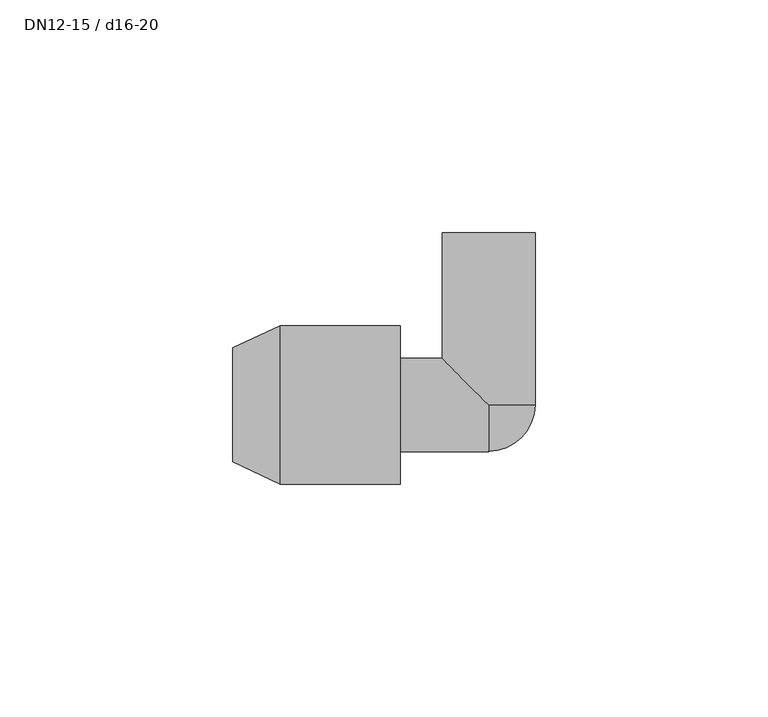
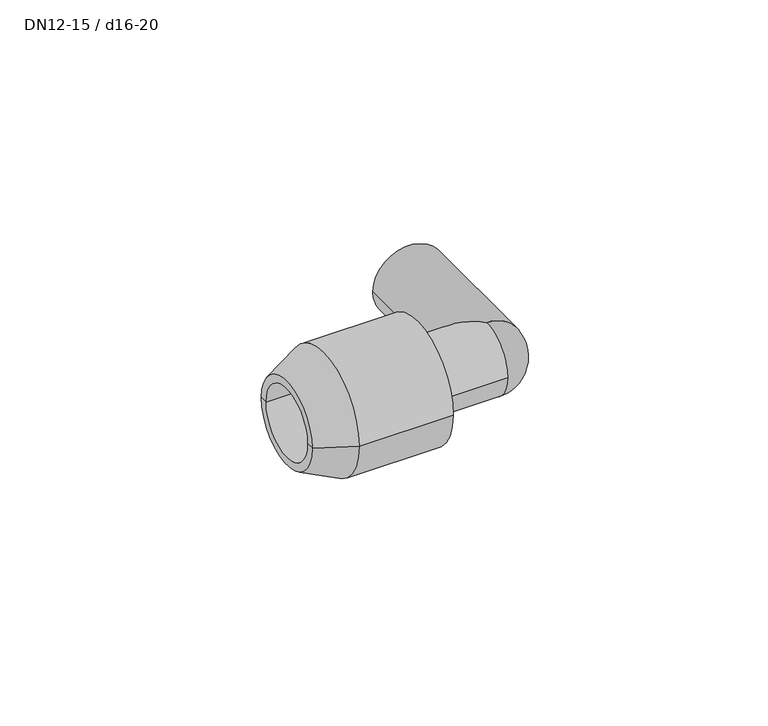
"""IFC4 building model written with IfcOpenShell, lengths in millimetres: pipe fitting geometry, NLRS_50_PIF_UN_PushFit bocht 90° met insteekeinde_geb : DN12-15 / d16-20."""

import ifcopenshell
import ifcopenshell.guid

model = None  # the IFC model being written
_history = None  # IfcOwnerHistory: only IFC2X3 demands one
_inside = {}  # id of a spatial element -> (the spatial element, [elements in it])
_under = {}  # id of a project, library or spatial element -> (it, [spatial elements below it])
_declared = {}  # id of a project -> (the project, [libraries it declares])
_typed = {}  # id of a type object -> (the type object, [elements of that type])
_made_of = {}  # id of a material, layer set ... -> (it, [elements and type objects made of it])


def new_model(schema):
    """Start an empty IFC model of exactly this schema.

    Asked for "IFC4X3", IfcOpenShell would pick the latest addendum, in which some entities
    have other attributes; the version numbers below select the first issue.
    IFC2X3 requires an IfcOwnerHistory on every rooted entity: one is made here for all.
    """
    global model, _history
    if schema == "IFC4X3":
        model = ifcopenshell.file(schema_version=(4, 3, 0, 0))
    else:
        model = ifcopenshell.file(schema=schema)
    _inside.clear()
    _under.clear()
    _declared.clear()
    _typed.clear()
    _made_of.clear()
    _history = None
    if model.schema == "IFC2X3":
        org = make("IfcOrganization", Name="unknown")
        user = make(
            "IfcPersonAndOrganization",
            ThePerson=make("IfcPerson", FamilyName="unknown"),
            TheOrganization=org,
        )
        app = make(
            "IfcApplication",
            ApplicationDeveloper=org,
            Version="unknown",
            ApplicationFullName="unknown",
            ApplicationIdentifier="unknown",
        )
        _history = make(
            "IfcOwnerHistory",
            OwningUser=user,
            OwningApplication=app,
            ChangeAction="ADDED",
            CreationDate=0,
        )
    return model


def make(cls, **values):
    """One entity of the class cls with the attributes given. An attribute that is None is left unset."""
    return model.create_entity(
        cls, **{name: value for name, value in values.items() if value is not None}
    )


def rooted(cls, **values):
    """An entity with a GlobalId (a new one), such as an element, a storey or a relation."""
    return make(cls, GlobalId=ifcopenshell.guid.new(), OwnerHistory=_history, **values)


def si_unit(unit_type, name, prefix=None):
    """IfcSIUnit, for example si_unit("LENGTHUNIT", "METRE", prefix="MILLI")."""
    return make("IfcSIUnit", UnitType=unit_type, Prefix=prefix, Name=name)


def assignment(units):
    """IfcUnitAssignment: the units of a project."""
    return None if units is None else make("IfcUnitAssignment", Units=units)


def point(xyz):
    """IfcCartesianPoint."""
    return None if xyz is None else make("IfcCartesianPoint", Coordinates=xyz)


def direction(xyz):
    """IfcDirection."""
    return None if xyz is None else make("IfcDirection", DirectionRatios=xyz)


def frame(location, z_axis=None, x_axis=None):
    """IfcAxis2Placement3D, a coordinate frame: its origin and axes. An axis left out is left unset."""
    return make(
        "IfcAxis2Placement3D",
        Location=point(location),
        Axis=direction(z_axis),
        RefDirection=direction(x_axis),
    )


def origin():
    """The frame at (0, 0, 0) with its axes left unset."""
    return frame((0.0, 0.0, 0.0))


def place(relative_to, where):
    """IfcLocalPlacement: puts the frame where relative to a parent placement (None: the world)."""
    return make(
        "IfcLocalPlacement", PlacementRelTo=relative_to, RelativePlacement=where
    )


def context(
    kind, dimensions, precision=None, world=None, true_north=None, identifier=None
):
    """IfcGeometricRepresentationContext, for example the 3D "Model" context."""
    return make(
        "IfcGeometricRepresentationContext",
        ContextIdentifier=identifier,
        ContextType=kind,
        CoordinateSpaceDimension=dimensions,
        Precision=precision,
        WorldCoordinateSystem=world,
        TrueNorth=true_north,
    )


def project(units=None, contexts=None):
    """IfcProject with its units and contexts."""
    return rooted(
        "IfcProject",
        Name="project",
        RepresentationContexts=contexts,
        UnitsInContext=assignment(units),
    )


def spatial(cls, under=None, at=None, **own):
    """A site, building, storey or space (cls), placed at a placement, below another one or the project."""
    s = rooted(cls, ObjectPlacement=at, **own)
    if under is not None:
        _under.setdefault(under.id(), (under, []))[1].append(s)
    return s


def polyline(points):
    """IfcPolyline through the points."""
    return make("IfcPolyline", Points=[point(p) for p in points])


def circle_curve(where, radius):
    """IfcCircle in the frame where."""
    return make("IfcCircle", Position=where, Radius=radius)


def ellipse_curve(where, semi_axis1, semi_axis2):
    """IfcEllipse in the frame where."""
    return make(
        "IfcEllipse", Position=where, SemiAxis1=semi_axis1, SemiAxis2=semi_axis2
    )


def trimmed(basis, trim1, trim2, sense, master):
    """IfcTrimmedCurve: the piece of a basis curve between two trims."""
    return make(
        "IfcTrimmedCurve",
        BasisCurve=basis,
        Trim1=trim1,
        Trim2=trim2,
        SenseAgreement=sense,
        MasterRepresentation=master,
    )


def shape(context_of_items, identifier, shape_type, items):
    """IfcShapeRepresentation: the items that make up one representation, for example the "Body"."""
    return make(
        "IfcShapeRepresentation",
        ContextOfItems=context_of_items,
        RepresentationIdentifier=identifier,
        RepresentationType=shape_type,
        Items=items,
    )


def source(mapping_origin, context_of_items, identifier, shape_type, items):
    """IfcRepresentationMap: a shape defined once, which mapped items show again and again."""
    return make(
        "IfcRepresentationMap",
        MappingOrigin=mapping_origin,
        MappedRepresentation=shape(context_of_items, identifier, shape_type, items),
    )


def transform(
    local_origin,
    x_axis=None,
    y_axis=None,
    z_axis=None,
    scale=None,
    scale2=None,
    scale3=None,
    uniform=True,
):
    """IfcCartesianTransformationOperator3D, or its non-uniform kind. x_axis, y_axis, z_axis: its Axis1, 2, 3."""
    if uniform:
        return make(
            "IfcCartesianTransformationOperator3D",
            Axis1=direction(x_axis),
            Axis2=direction(y_axis),
            LocalOrigin=point(local_origin),
            Scale=scale,
            Axis3=direction(z_axis),
        )
    return make(
        "IfcCartesianTransformationOperator3DnonUniform",
        Axis1=direction(x_axis),
        Axis2=direction(y_axis),
        LocalOrigin=point(local_origin),
        Scale=scale,
        Axis3=direction(z_axis),
        Scale2=scale2,
        Scale3=scale3,
    )


def mapped(mapping_source, mapping_target):
    """IfcMappedItem: shows the shape of a source again, moved by a transform."""
    return make(
        "IfcMappedItem", MappingSource=mapping_source, MappingTarget=mapping_target
    )


def made_of(thing, what):
    """Note that an element or type object is made of a material, layer set ...; save() writes the relation."""
    if what is not None:
        _made_of.setdefault(what.id(), (what, []))[1].append(thing)
    return thing


def element(
    cls,
    number,
    at=None,
    inside=None,
    cuts=None,
    type_object=None,
    material=None,
    context=None,
    identifier="Body",
    shape_type=None,
    held_by="IfcProductDefinitionShape",
    body=None,
    shapes=None,
    **own,
):
    """One element of the class cls, such as IfcWall. Its Tag is "e" and its number.

    at: its placement. inside: the storey or other place that contains it. cuts: it is an
    opening in that element (IfcRelVoidsElement). A single representation is given by context,
    identifier, shape_type and body (its items); several are given by shapes. held_by: the class
    of the entity that holds the representations. save() writes the other relations.
    """
    e = rooted(cls, Tag="e%d" % number, ObjectPlacement=at, **own)
    if body is not None:
        shapes = [shape(context, identifier, shape_type, body)]
    if shapes is not None:
        e.Representation = make(held_by, Representations=shapes)
    if inside is not None:
        _inside.setdefault(inside.id(), (inside, []))[1].append(e)
    if cuts is not None:
        rooted(
            "IfcRelVoidsElement", RelatingBuildingElement=cuts, RelatedOpeningElement=e
        )
    if type_object is not None:
        _typed.setdefault(type_object.id(), (type_object, []))[1].append(e)
    return made_of(e, material)


def aggregate(whole, parts):
    """IfcRelAggregates: a whole, such as a stair, and the parts it consists of."""
    return rooted("IfcRelAggregates", RelatingObject=whole, RelatedObjects=parts)


def save(model, path):
    """Write the relations noted so far, then the file.

    IfcRelAggregates (storeys below a building ...), IfcRelContainedInSpatialStructure (elements
    in a storey), IfcRelDefinesByType, IfcRelAssociatesMaterial and IfcRelDeclares: one each for
    every whole, place, type object, material and project.
    """
    for whole, parts in _under.values():
        aggregate(whole, parts)
    for where, things in _inside.values():
        rooted(
            "IfcRelContainedInSpatialStructure",
            RelatedElements=things,
            RelatingStructure=where,
        )
    for kind, things in _typed.values():
        rooted("IfcRelDefinesByType", RelatedObjects=things, RelatingType=kind)
    for what, things in _made_of.values():
        rooted("IfcRelAssociatesMaterial", RelatedObjects=things, RelatingMaterial=what)
    for by, libraries in _declared.values():
        rooted("IfcRelDeclares", RelatingContext=by, RelatedDefinitions=libraries)
    model.write(path)


def plane_surface(at):
    """IfcPlane: the flat surface through the origin of the frame at, square to its z axis."""
    return make("IfcPlane", Position=at)


def cylinder_surface(at, radius):
    """IfcCylindricalSurface: all points at the distance radius from the z axis of the frame at."""
    return make("IfcCylindricalSurface", Position=at, Radius=radius)


def revolved_surface(curve, axis_point, axis_direction):
    """IfcSurfaceOfRevolution: the curve turned about the line through axis_point along axis_direction."""
    return make(
        "IfcSurfaceOfRevolution",
        SweptCurve=make("IfcArbitraryOpenProfileDef", ProfileType="CURVE", Curve=curve),
        AxisPosition=make("IfcAxis1Placement", Location=point(axis_point), Axis=direction(axis_direction)),
    )


def advanced_brep(points, edges, surfaces, faces):
    """IfcAdvancedBrep: a solid bounded by faces that lie on surfaces and meet in shared edges.

    An edge is (start, end): straight between two places in points (the first is 0);
    or (start, end, curve); or (start, end, curve, False) where it runs against its curve.
    A face is (place in surfaces, loops), or (place, loops, False) where it looks against
    its surface's normal. A loop lists edges by number (the first is 1), with a minus sign
    where the edge is run from its end to its start. The first loop is the outer one.
    """
    corners = [point(p) for p in points]
    vertices = [make("IfcVertexPoint", VertexGeometry=c) for c in corners]
    made = []
    for start, end, *more in edges:
        made.append(
            make(
                "IfcEdgeCurve",
                EdgeStart=vertices[start],
                EdgeEnd=vertices[end],
                EdgeGeometry=more[0] if more else make("IfcPolyline", Points=[corners[start], corners[end]]),
                SameSense=more[1] if len(more) > 1 else True,
            )
        )
    hull = []
    for where, loops, *sense in faces:
        bounds = []
        for j, loop in enumerate(loops):
            ring = [make("IfcOrientedEdge", EdgeElement=made[abs(k) - 1], Orientation=k > 0) for k in loop]
            bounds.append(
                make(
                    "IfcFaceOuterBound" if j == 0 else "IfcFaceBound",
                    Bound=make("IfcEdgeLoop", EdgeList=ring),
                    Orientation=True,
                )
            )
        hull.append(make("IfcAdvancedFace", Bounds=bounds, FaceSurface=surfaces[where], SameSense=sense[0] if sense else True))
    return make("IfcAdvancedBrep", Outer=make("IfcClosedShell", CfsFaces=hull))


def dn12_15_d16_20_9174b6bf(model_context):
    return source(origin(), model_context, "Body", "AdvancedBrep", [
        advanced_brep(
        [(-19.0, -17.0, 0.0), (-19.0, 17.0, 0.0), (-19.0, 0.0, 0.0), (-44.8135921, -17.0, 0.0), (-44.8135921, 17.0, 0.0), (-55.0, -12.25, 0.0), (-55.0, 12.25, 0.0), (-29.0, -10.0, 0.0), (-29.0, 10.0, 0.0), (-55.0, 10.0, 0.0), (-55.0, -10.0, 0.0), (-29.0, 0.0, 0.0)],
        [
            (0, 1, circle_curve(frame((-19.0, 0.0, 0.0), z_axis=(1.0, 0.0, 0.0), x_axis=(0.0, 1.0, 0.0)), 17.0)),
            (1, 2),
            (2, 0),
            (1, 0, circle_curve(frame((-19.0, 0.0, 0.0), z_axis=(1.0, 0.0, 0.0), x_axis=(0.0, 1.0, 0.0)), 17.0)),
            (3, 4, circle_curve(frame((-44.8135921, 0.0, 0.0), z_axis=(1.0, 0.0, 0.0), x_axis=(0.0, 1.0, 0.0)), 17.0)),
            (4, 1),
            (0, 3),
            (4, 3, circle_curve(frame((-44.8135921, 0.0, 0.0), z_axis=(1.0, 0.0, 0.0), x_axis=(0.0, 1.0, 0.0)), 17.0)),
            (5, 6, circle_curve(frame((-55.0, 0.0, 0.0), z_axis=(1.0, 0.0, 0.0), x_axis=(0.0, 1.0, 0.0)), 12.25)),
            (6, 4),
            (3, 5),
            (6, 5, circle_curve(frame((-55.0, 0.0, 0.0), z_axis=(1.0, 0.0, 0.0), x_axis=(0.0, 1.0, 0.0)), 12.25)),
            (7, 8, circle_curve(frame((-29.0, 0.0, 0.0), z_axis=(1.0, 0.0, 0.0), x_axis=(0.0, 1.0, 0.0)), 10.0)),
            (8, 9),
            (9, 10, circle_curve(frame((-55.0, 0.0, 0.0), z_axis=(-1.0, 0.0, 0.0), x_axis=(0.0, 1.0, 0.0)), 10.0)),
            (10, 7),
            (8, 7, circle_curve(frame((-29.0, 0.0, 0.0), z_axis=(1.0, 0.0, 0.0), x_axis=(0.0, 1.0, 0.0)), 10.0)),
            (10, 9, circle_curve(frame((-55.0, 0.0, 0.0), z_axis=(-1.0, 0.0, 0.0), x_axis=(0.0, 1.0, 0.0)), 10.0)),
            (11, 8),
            (7, 11),
            (9, 6),
            (5, 10),
        ],
        [
            plane_surface(frame((-19.0, 0.0, 0.0), z_axis=(1.0, 0.0, 0.0), x_axis=(0.0, 1.0, 0.0))),
            cylinder_surface(frame((-65.0, 0.0, 0.0), z_axis=(-1.0, 0.0, 0.0), x_axis=(0.0, 1.0, 0.0)), 17.0),
            revolved_surface(polyline([(-44.8135921, 17.0, 0.0), (-55.0, 12.25, 0.0)]), (-65.0, 0.0, 0.0), (-1.0, 0.0, 0.0)),
            revolved_surface(polyline([(-55.0, 10.0, 0.0), (-29.0, 10.0, 0.0)]), (-65.0, 0.0, 0.0), (-1.0, 0.0, 0.0)),
            plane_surface(frame((-29.0, 0.0, 0.0), z_axis=(-1.0, 0.0, 0.0), x_axis=(0.0, 1.0, 0.0))),
            plane_surface(frame((-55.0, 0.0, 0.0), z_axis=(-1.0, 0.0, 0.0), x_axis=(0.0, 1.0, 0.0))),
        ],
        [
            (0, [[1, 2, 3]]),
            (0, [[4, -3, -2]]),
            (1, [[5, 6, -1, 7]]),
            (1, [[8, -7, -4, -6]]),
            (2, [[9, 10, -5, 11]]),
            (2, [[12, -11, -8, -10]]),
            (3, [[13, 14, 15, 16]]),
            (3, [[17, -16, 18, -14]]),
            (4, [[19, -13, 20]]),
            (4, [[-20, -17, -19]]),
            (5, [[-15, 21, -9, 22]]),
            (5, [[-18, -22, -12, -21]]),
        ],
    ),
        advanced_brep(
        [(0.0, 37.0, 0.0), (10.0, 37.0, 0.0), (-10.0, 37.0, 0.0), (10.0, 0.0, 0.0), (0.0, 0.0, -10.0), (-10.0, 10.0, 0.0), (0.0, 0.0, 10.0), (-19.0, -10.0, 0.0), (-19.0, 10.0, 0.0), (0.0, -10.0, 0.0), (-19.0, 0.0, 0.0)],
        [
            (0, 1),
            (1, 2, circle_curve(frame((0.0, 37.0, 0.0), z_axis=(0.0, 1.0, 0.0), x_axis=(1.0, 0.0, 0.0)), 10.0)),
            (2, 0),
            (2, 1, circle_curve(frame((0.0, 37.0, 0.0), z_axis=(0.0, 1.0, 0.0), x_axis=(1.0, 0.0, 0.0)), 10.0)),
            (1, 3),
            (3, 4, circle_curve(frame((0.0, 0.0, 0.0), z_axis=(0.0, 1.0, 0.0), x_axis=(1.0, 0.0, 0.0)), 10.0)),
            (4, 5, ellipse_curve(frame((0.0, 0.0, 0.0), z_axis=(0.7071067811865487, 0.7071067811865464, 0.0), x_axis=(-0.7071067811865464, 0.7071067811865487, 0.0)), 14.1421356, 10.0)),
            (5, 2),
            (5, 6, ellipse_curve(frame((0.0, 0.0, 0.0), z_axis=(0.7071067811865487, 0.7071067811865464, 0.0), x_axis=(-0.7071067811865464, 0.7071067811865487, 0.0)), 14.1421356, 10.0)),
            (6, 3, circle_curve(frame((0.0, 0.0, 0.0), z_axis=(0.0, 1.0, 0.0), x_axis=(1.0, 0.0, 0.0)), 10.0)),
            (7, 8, circle_curve(frame((-19.0, 0.0, 0.0), z_axis=(1.0, 0.0, 0.0), x_axis=(0.0, 1.0, 0.0)), 10.0)),
            (8, 5),
            (4, 9, circle_curve(frame((0.0, 0.0, 0.0), z_axis=(-1.0, 0.0, 0.0), x_axis=(0.0, 1.0, 0.0)), 10.0)),
            (9, 7),
            (9, 6, circle_curve(frame((0.0, 0.0, 0.0), z_axis=(-1.0, 0.0, 0.0), x_axis=(0.0, 1.0, 0.0)), 10.0)),
            (8, 7, circle_curve(frame((-19.0, 0.0, 0.0), z_axis=(1.0, 0.0, 0.0), x_axis=(0.0, 1.0, 0.0)), 10.0)),
            (7, 10),
            (10, 8),
        ],
        [
            plane_surface(frame((0.0, 37.0, 0.0), z_axis=(0.0, 1.0, 0.0), x_axis=(1.0, 0.0, 0.0))),
            cylinder_surface(frame((0.0, 69.5531204, 0.0), z_axis=(0.0, 1.0, 0.0), x_axis=(1.0, 0.0, 0.0)), 10.0),
            cylinder_surface(frame((19.4821354, 0.0, 0.0), z_axis=(-1.0, 0.0, 0.0), x_axis=(0.0, 1.0, 0.0)), 10.0),
            plane_surface(frame((-19.0, 0.0, 0.0), z_axis=(-1.0, 0.0, 0.0), x_axis=(0.0, 1.0, 0.0))),
            revolved_surface(trimmed(ellipse_curve(frame((0.0, 0.0, 0.0), z_axis=(0.0, -1.0, 0.0), x_axis=(1.0, 0.0, 0.0)), 10.0, 10.0), [point((0.0, 0.0, -10.0))], [point((0.0, 0.0, 10.0))], True, "CARTESIAN"), (0.0, 0.0, 31.7080973), (0.0, 0.0, 1.0)),
        ],
        [
            (0, [[1, 2, 3]]),
            (0, [[-1, -3, 4]]),
            (1, [[-2, 5, 6, 7, 8]]),
            (1, [[-4, -8, 9, 10, -5]]),
            (2, [[11, 12, -7, 13, 14]]),
            (2, [[-14, 15, -9, -12, 16]]),
            (3, [[-11, 17, 18]]),
            (3, [[-16, -18, -17]]),
            (4, [[-6, -10, -15, -13]]),
        ],
    ),
    ])


if __name__ == "__main__":
    model = new_model("IFC4")
    model_context = context("Model", 3, world=origin())
    ifc_project = project(units=[si_unit("LENGTHUNIT", "METRE", prefix="MILLI")], contexts=[model_context])
    site = spatial("IfcSite", under=ifc_project)
    building = spatial("IfcBuilding", under=site)
    placement = place(None, origin())
    dn12_15_d16_20_shape = dn12_15_d16_20_9174b6bf(model_context)
    element("IfcPipeFitting", 1, ObjectType="NLRS_50_PIF_UN_PushFit bocht 90° met insteekeinde_geb : DN12-15 / d16-20", at=placement, inside=building, context=model_context, shape_type="MappedRepresentation", body=[
        mapped(dn12_15_d16_20_shape, transform((0.0, 0.0, 0.0), x_axis=(1.0, 0.0, 0.0), y_axis=(0.0, 1.0, 0.0), z_axis=(0.0, 0.0, 1.0))),
    ])
    save(model, "model.ifc")
